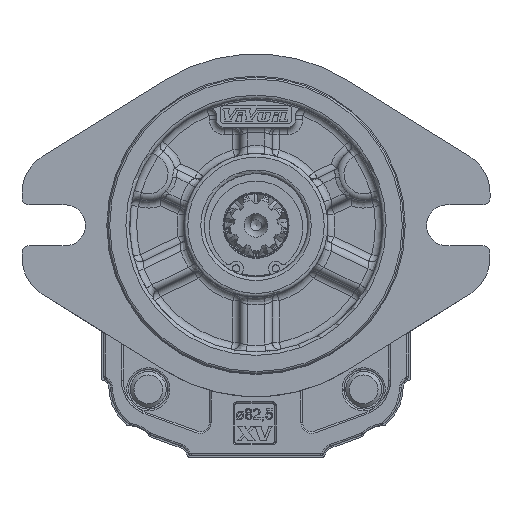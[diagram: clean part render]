
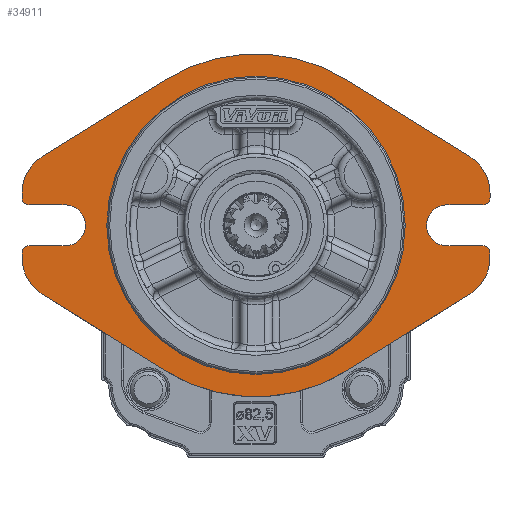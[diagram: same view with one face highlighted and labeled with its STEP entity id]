
A CAD part, front view. The second image highlights one B-rep face of the part: STEP entity #34911.
In plain terms, the highlighted planar face has unit normal (0, -1, 0).
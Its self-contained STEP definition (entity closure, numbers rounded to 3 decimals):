
#1558=LINE('',#51485,#3468);
#1562=LINE('',#51497,#3472);
#1563=LINE('',#51499,#3473);
#1570=LINE('',#51518,#3480);
#1571=LINE('',#51520,#3481);
#1578=LINE('',#51549,#3488);
#1579=LINE('',#51554,#3489);
#1580=LINE('',#51558,#3490);
#1581=LINE('',#51561,#3491);
#1582=LINE('',#51565,#3492);
#1583=LINE('',#51569,#3493);
#1584=LINE('',#51573,#3494);
#3468=VECTOR('',#40993,1000.);
#3472=VECTOR('',#41005,1000.);
#3473=VECTOR('',#41008,1000.);
#3480=VECTOR('',#41023,1000.);
#3481=VECTOR('',#41026,1000.);
#3488=VECTOR('',#41055,1000.);
#3489=VECTOR('',#41058,1000.);
#3490=VECTOR('',#41061,1000.);
#3491=VECTOR('',#41066,1000.);
#3492=VECTOR('',#41069,1000.);
#3493=VECTOR('',#41072,1000.);
#3494=VECTOR('',#41075,1000.);
#4926=PLANE('',#36825);
#8342=ORIENTED_EDGE('',*,*,#14797,.T.);
#8343=ORIENTED_EDGE('',*,*,#14798,.F.);
#8344=ORIENTED_EDGE('',*,*,#14799,.T.);
#8345=ORIENTED_EDGE('',*,*,#14800,.F.);
#8346=ORIENTED_EDGE('',*,*,#14801,.F.);
#8347=ORIENTED_EDGE('',*,*,#14802,.F.);
#8348=ORIENTED_EDGE('',*,*,#14718,.F.);
#8349=ORIENTED_EDGE('',*,*,#14767,.F.);
#8350=ORIENTED_EDGE('',*,*,#14770,.F.);
#8351=ORIENTED_EDGE('',*,*,#14773,.F.);
#8352=ORIENTED_EDGE('',*,*,#14803,.T.);
#8353=ORIENTED_EDGE('',*,*,#14774,.F.);
#8354=ORIENTED_EDGE('',*,*,#14780,.F.);
#8355=ORIENTED_EDGE('',*,*,#14783,.F.);
#8356=ORIENTED_EDGE('',*,*,#14804,.T.);
#8357=ORIENTED_EDGE('',*,*,#14784,.F.);
#8358=ORIENTED_EDGE('',*,*,#14796,.F.);
#8359=ORIENTED_EDGE('',*,*,#14805,.F.);
#8360=ORIENTED_EDGE('',*,*,#14806,.F.);
#8361=ORIENTED_EDGE('',*,*,#14807,.F.);
#8362=ORIENTED_EDGE('',*,*,#14808,.F.);
#8363=ORIENTED_EDGE('',*,*,#14809,.F.);
#8364=ORIENTED_EDGE('',*,*,#14810,.T.);
#8365=ORIENTED_EDGE('',*,*,#14811,.F.);
#8366=ORIENTED_EDGE('',*,*,#14812,.F.);
#14718=EDGE_CURVE('',#18092,#18093,#20049,.T.);
#14767=EDGE_CURVE('',#18135,#18092,#1558,.T.);
#14770=EDGE_CURVE('',#18137,#18135,#20077,.T.);
#14773=EDGE_CURVE('',#18139,#18137,#1562,.T.);
#14774=EDGE_CURVE('',#18140,#18141,#1563,.T.);
#14780=EDGE_CURVE('',#18145,#18140,#20079,.T.);
#14783=EDGE_CURVE('',#18147,#18145,#1570,.T.);
#14784=EDGE_CURVE('',#18148,#18149,#1571,.T.);
#14796=EDGE_CURVE('',#18157,#18148,#20085,.T.);
#14797=EDGE_CURVE('',#18158,#18158,#20086,.T.);
#14798=EDGE_CURVE('',#18159,#18160,#1578,.T.);
#14799=EDGE_CURVE('',#18159,#18161,#20087,.F.);
#14800=EDGE_CURVE('',#18162,#18161,#1579,.T.);
#14801=EDGE_CURVE('',#18163,#18162,#20088,.T.);
#14802=EDGE_CURVE('',#18093,#18163,#1580,.T.);
#14803=EDGE_CURVE('',#18139,#18141,#20089,.F.);
#14804=EDGE_CURVE('',#18147,#18149,#20090,.F.);
#14805=EDGE_CURVE('',#18164,#18157,#1581,.T.);
#14806=EDGE_CURVE('',#18165,#18164,#20091,.T.);
#14807=EDGE_CURVE('',#18166,#18165,#1582,.T.);
#14808=EDGE_CURVE('',#18167,#18166,#20092,.T.);
#14809=EDGE_CURVE('',#18168,#18167,#1583,.T.);
#14810=EDGE_CURVE('',#18168,#18169,#20093,.F.);
#14811=EDGE_CURVE('',#18170,#18169,#1584,.T.);
#14812=EDGE_CURVE('',#18160,#18170,#20094,.T.);
#18092=VERTEX_POINT('',#51385);
#18093=VERTEX_POINT('',#51387);
#18135=VERTEX_POINT('',#51484);
#18137=VERTEX_POINT('',#51490);
#18139=VERTEX_POINT('',#51496);
#18140=VERTEX_POINT('',#51500);
#18141=VERTEX_POINT('',#51501);
#18145=VERTEX_POINT('',#51511);
#18147=VERTEX_POINT('',#51517);
#18148=VERTEX_POINT('',#51521);
#18149=VERTEX_POINT('',#51522);
#18157=VERTEX_POINT('',#51544);
#18158=VERTEX_POINT('',#51548);
#18159=VERTEX_POINT('',#51550);
#18160=VERTEX_POINT('',#51551);
#18161=VERTEX_POINT('',#51553);
#18162=VERTEX_POINT('',#51555);
#18163=VERTEX_POINT('',#51557);
#18164=VERTEX_POINT('',#51562);
#18165=VERTEX_POINT('',#51564);
#18166=VERTEX_POINT('',#51566);
#18167=VERTEX_POINT('',#51568);
#18168=VERTEX_POINT('',#51570);
#18169=VERTEX_POINT('',#51572);
#18170=VERTEX_POINT('',#51574);
#20049=CIRCLE('',#36774,47.75);
#20077=CIRCLE('',#36808,12.);
#20079=CIRCLE('',#36813,5.7);
#20085=CIRCLE('',#36824,12.);
#20086=CIRCLE('',#36826,40.982);
#20087=CIRCLE('',#36827,2.);
#20088=CIRCLE('',#36828,12.);
#20089=CIRCLE('',#36829,2.);
#20090=CIRCLE('',#36830,2.);
#20091=CIRCLE('',#36831,47.75);
#20092=CIRCLE('',#36832,12.);
#20093=CIRCLE('',#36833,2.);
#20094=CIRCLE('',#36834,5.7);
#21534=EDGE_LOOP('',(#8342));
#21535=EDGE_LOOP('',(#8343,#8344,#8345,#8346,#8347,#8348,#8349,#8350,#8351,
#8352,#8353,#8354,#8355,#8356,#8357,#8358,#8359,#8360,#8361,#8362,#8363,
#8364,#8365,#8366));
#23222=FACE_BOUND('',#21534,.T.);
#23223=FACE_BOUND('',#21535,.T.);
#34911=ADVANCED_FACE('',(#23222,#23223),#4926,.F.);
#36774=AXIS2_PLACEMENT_3D('',#51386,#40909,#40910);
#36808=AXIS2_PLACEMENT_3D('',#51491,#40999,#41000);
#36813=AXIS2_PLACEMENT_3D('',#51512,#41017,#41018);
#36824=AXIS2_PLACEMENT_3D('',#51545,#41049,#41050);
#36825=AXIS2_PLACEMENT_3D('',#51546,#41051,#41052);
#36826=AXIS2_PLACEMENT_3D('',#51547,#41053,#41054);
#36827=AXIS2_PLACEMENT_3D('',#51552,#41056,#41057);
#36828=AXIS2_PLACEMENT_3D('',#51556,#41059,#41060);
#36829=AXIS2_PLACEMENT_3D('',#51559,#41062,#41063);
#36830=AXIS2_PLACEMENT_3D('',#51560,#41064,#41065);
#36831=AXIS2_PLACEMENT_3D('',#51563,#41067,#41068);
#36832=AXIS2_PLACEMENT_3D('',#51567,#41070,#41071);
#36833=AXIS2_PLACEMENT_3D('',#51571,#41073,#41074);
#36834=AXIS2_PLACEMENT_3D('',#51575,#41076,#41077);
#40909=DIRECTION('',(0.,1.,0.));
#40910=DIRECTION('',(-1.,0.,0.));
#40993=DIRECTION('',(-0.849,0.,-0.528));
#40999=DIRECTION('',(0.,1.,0.));
#41000=DIRECTION('',(-1.,0.,0.));
#41005=DIRECTION('',(0.,0.,-1.));
#41008=DIRECTION('',(1.,0.,0.));
#41017=DIRECTION('',(0.,-1.,0.));
#41018=DIRECTION('',(1.,0.,0.));
#41023=DIRECTION('',(-1.,0.,0.));
#41026=DIRECTION('',(0.,0.,-1.));
#41049=DIRECTION('',(0.,1.,0.));
#41050=DIRECTION('',(-1.,0.,0.));
#41051=DIRECTION('',(0.,1.,0.));
#41052=DIRECTION('',(0.,0.,-1.));
#41053=DIRECTION('',(0.,1.,0.));
#41054=DIRECTION('',(-1.,0.,0.));
#41055=DIRECTION('',(1.,0.,0.));
#41056=DIRECTION('',(0.,1.,0.));
#41057=DIRECTION('',(0.,0.,-1.));
#41058=DIRECTION('',(0.,0.,1.));
#41059=DIRECTION('',(0.,1.,0.));
#41060=DIRECTION('',(1.,0.,0.));
#41061=DIRECTION('',(-0.849,0.,0.528));
#41062=DIRECTION('',(0.,1.,0.));
#41063=DIRECTION('',(0.,0.,-1.));
#41064=DIRECTION('',(0.,1.,0.));
#41065=DIRECTION('',(0.,0.,-1.));
#41066=DIRECTION('',(0.849,0.,-0.528));
#41067=DIRECTION('',(0.,1.,0.));
#41068=DIRECTION('',(-1.,0.,0.));
#41069=DIRECTION('',(0.849,0.,0.528));
#41070=DIRECTION('',(0.,1.,0.));
#41071=DIRECTION('',(1.,0.,0.));
#41072=DIRECTION('',(0.,0.,1.));
#41073=DIRECTION('',(0.,1.,0.));
#41074=DIRECTION('',(0.,0.,-1.));
#41075=DIRECTION('',(-1.,0.,0.));
#41076=DIRECTION('',(0.,-1.,0.));
#41077=DIRECTION('',(-1.,0.,0.));
#51385=CARTESIAN_POINT('',(25.235,-19.,-24.837));
#51386=CARTESIAN_POINT('',(0.,-19.,15.7));
#51387=CARTESIAN_POINT('',(-25.235,-19.,-24.837));
#51484=CARTESIAN_POINT('',(59.532,-19.,-3.487));
#51485=CARTESIAN_POINT('',(59.532,-19.,-3.487));
#51490=CARTESIAN_POINT('',(65.19,-19.,6.7));
#51491=CARTESIAN_POINT('',(53.19,-19.,6.7));
#51496=CARTESIAN_POINT('',(65.19,-19.,8.));
#51497=CARTESIAN_POINT('',(65.19,-19.,6.7));
#51499=CARTESIAN_POINT('',(53.19,-19.,10.));
#51500=CARTESIAN_POINT('',(53.19,-19.,10.));
#51501=CARTESIAN_POINT('',(63.19,-19.,10.));
#51511=CARTESIAN_POINT('',(53.19,-19.,21.4));
#51512=CARTESIAN_POINT('',(53.19,-19.,15.7));
#51517=CARTESIAN_POINT('',(63.19,-19.,21.4));
#51518=CARTESIAN_POINT('',(53.19,-19.,21.4));
#51520=CARTESIAN_POINT('',(65.19,-19.,24.7));
#51521=CARTESIAN_POINT('',(65.19,-19.,24.7));
#51522=CARTESIAN_POINT('',(65.19,-19.,23.4));
#51544=CARTESIAN_POINT('',(59.532,-19.,34.887));
#51545=CARTESIAN_POINT('',(53.19,-19.,24.7));
#51546=CARTESIAN_POINT('',(0.,-19.,15.7));
#51547=CARTESIAN_POINT('',(0.,-19.,15.7));
#51548=CARTESIAN_POINT('',(-40.982,-19.,15.7));
#51549=CARTESIAN_POINT('',(-53.19,-19.,10.));
#51550=CARTESIAN_POINT('',(-63.19,-19.,10.));
#51551=CARTESIAN_POINT('',(-53.19,-19.,10.));
#51552=CARTESIAN_POINT('',(-63.19,-19.,8.));
#51553=CARTESIAN_POINT('',(-65.19,-19.,8.));
#51554=CARTESIAN_POINT('',(-65.19,-19.,6.7));
#51555=CARTESIAN_POINT('',(-65.19,-19.,6.7));
#51556=CARTESIAN_POINT('',(-53.19,-19.,6.7));
#51557=CARTESIAN_POINT('',(-59.532,-19.,-3.487));
#51558=CARTESIAN_POINT('',(-59.532,-19.,-3.487));
#51559=CARTESIAN_POINT('',(63.19,-19.,8.));
#51560=CARTESIAN_POINT('',(63.19,-19.,23.4));
#51561=CARTESIAN_POINT('',(25.235,-19.,56.237));
#51562=CARTESIAN_POINT('',(25.235,-19.,56.237));
#51563=CARTESIAN_POINT('',(0.,-19.,15.7));
#51564=CARTESIAN_POINT('',(-25.235,-19.,56.237));
#51565=CARTESIAN_POINT('',(-25.235,-19.,56.237));
#51566=CARTESIAN_POINT('',(-59.532,-19.,34.887));
#51567=CARTESIAN_POINT('',(-53.19,-19.,24.7));
#51568=CARTESIAN_POINT('',(-65.19,-19.,24.7));
#51569=CARTESIAN_POINT('',(-65.19,-19.,24.7));
#51570=CARTESIAN_POINT('',(-65.19,-19.,23.4));
#51571=CARTESIAN_POINT('',(-63.19,-19.,23.4));
#51572=CARTESIAN_POINT('',(-63.19,-19.,21.4));
#51573=CARTESIAN_POINT('',(-53.19,-19.,21.4));
#51574=CARTESIAN_POINT('',(-53.19,-19.,21.4));
#51575=CARTESIAN_POINT('',(-53.19,-19.,15.7));
